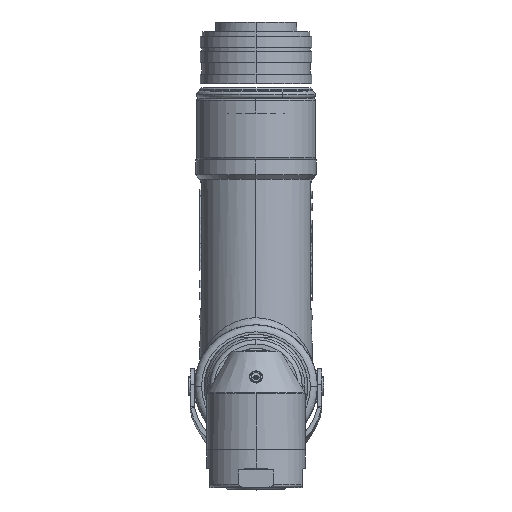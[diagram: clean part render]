
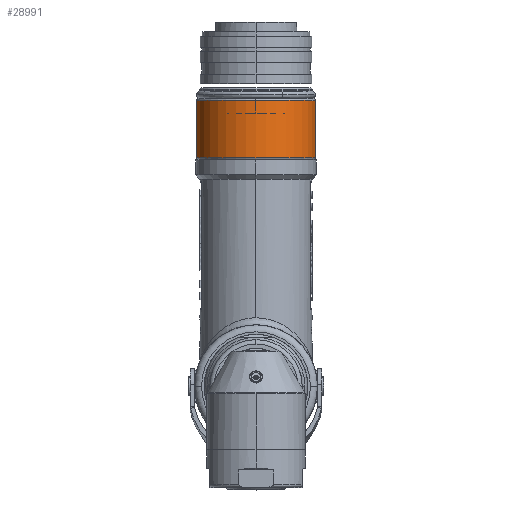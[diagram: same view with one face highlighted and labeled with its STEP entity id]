
A CAD part, top view. The second image highlights one B-rep face of the part: STEP entity #28991.
In plain terms, the highlighted cylindrical face has radius 21.526 mm (diameter 43.053 mm), a partial arc.
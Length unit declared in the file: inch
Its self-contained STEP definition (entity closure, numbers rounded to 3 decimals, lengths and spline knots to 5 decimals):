
#110 = VERTEX_POINT ( 'NONE', #14617 ) ;
#4225 = AXIS2_PLACEMENT_3D ( 'NONE', #56552, #56481, #56432 ) ;
#5833 = ORIENTED_EDGE ( 'NONE', *, *, #28719, .T. ) ;
#8981 = VECTOR ( 'NONE', #35739, 39.37008 ) ;
#10830 = VERTEX_POINT ( 'NONE', #30138 ) ;
#10989 = VERTEX_POINT ( 'NONE', #42181 ) ;
#11162 = AXIS2_PLACEMENT_3D ( 'NONE', #25287, #25156, #25093 ) ;
#11557 = CARTESIAN_POINT ( 'NONE',  ( 0.8475, 4.0699, -0.451 ) ) ;
#13672 = ORIENTED_EDGE ( 'NONE', *, *, #26643, .F. ) ;
#14617 = CARTESIAN_POINT ( 'NONE',  ( -0.8475, 3.2549, -0.451 ) ) ;
#16809 = CIRCLE ( 'NONE', #11162, 0.8475 ) ;
#19793 = CYLINDRICAL_SURFACE ( 'NONE', #22735, 0.8475 ) ;
#20952 = VERTEX_POINT ( 'NONE', #11557 ) ;
#21219 = FACE_OUTER_BOUND ( 'NONE', #55578, .T. ) ;
#21487 = DIRECTION ( 'NONE',  ( 0., -1., 0. ) ) ;
#21687 = CARTESIAN_POINT ( 'NONE',  ( 0.8475, 2.15244, -0.451 ) ) ;
#22735 = AXIS2_PLACEMENT_3D ( 'NONE', #50647, #49090, #48700 ) ;
#25093 = DIRECTION ( 'NONE',  ( -1., 0., 0. ) ) ;
#25102 = ORIENTED_EDGE ( 'NONE', *, *, #29776, .F. ) ;
#25156 = DIRECTION ( 'NONE',  ( 0., -1., 0. ) ) ;
#25287 = CARTESIAN_POINT ( 'NONE',  ( 0., 3.2549, -0.451 ) ) ;
#26643 = EDGE_CURVE ( 'NONE', #10830, #110, #16809, .T. ) ;
#28719 = EDGE_CURVE ( 'NONE', #20952, #10989, #50528, .T. ) ;
#28991 = ADVANCED_FACE ( 'NONE', ( #21219 ), #19793, .T. ) ;
#29361 = EDGE_CURVE ( 'NONE', #10989, #110, #53097, .T. ) ;
#29776 = EDGE_CURVE ( 'NONE', #20952, #10830, #54100, .T. ) ;
#29905 = ORIENTED_EDGE ( 'NONE', *, *, #29361, .T. ) ;
#30138 = CARTESIAN_POINT ( 'NONE',  ( 0.8475, 3.2549, -0.451 ) ) ;
#35739 = DIRECTION ( 'NONE',  ( 0., -1., 0. ) ) ;
#37080 = CARTESIAN_POINT ( 'NONE',  ( -0.8475, 2.15244, -0.451 ) ) ;
#42181 = CARTESIAN_POINT ( 'NONE',  ( -0.8475, 4.0699, -0.451 ) ) ;
#48700 = DIRECTION ( 'NONE',  ( -1., 0., 0. ) ) ;
#49090 = DIRECTION ( 'NONE',  ( 0., -1., 0. ) ) ;
#50528 = CIRCLE ( 'NONE', #4225, 0.8475 ) ;
#50647 = CARTESIAN_POINT ( 'NONE',  ( 0., 2.15244, -0.451 ) ) ;
#53097 = LINE ( 'NONE', #37080, #8981 ) ;
#54100 = LINE ( 'NONE', #21687, #54669 ) ;
#54669 = VECTOR ( 'NONE', #21487, 39.37008 ) ;
#55578 = EDGE_LOOP ( 'NONE', ( #25102, #5833, #29905, #13672 ) ) ;
#56432 = DIRECTION ( 'NONE',  ( -1., 0., 0. ) ) ;
#56481 = DIRECTION ( 'NONE',  ( 0., -1., 0. ) ) ;
#56552 = CARTESIAN_POINT ( 'NONE',  ( 0., 4.0699, -0.451 ) ) ;
